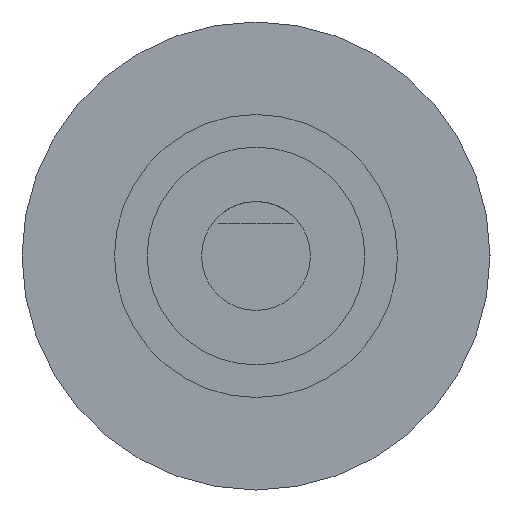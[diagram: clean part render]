
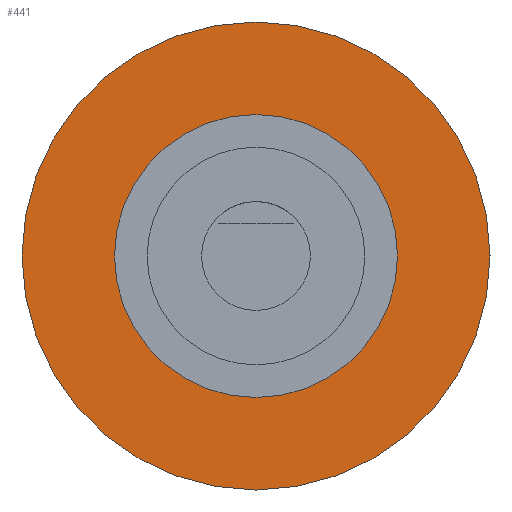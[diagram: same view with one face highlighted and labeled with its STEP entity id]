
A CAD part, left-side view. The second image highlights one B-rep face of the part: STEP entity #441.
In plain terms, the highlighted planar face has unit normal (-1, 0, 0) as drawn and (0, -1, 0) by its records, which use the part's own axes.
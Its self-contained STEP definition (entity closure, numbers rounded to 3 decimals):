
#184 = VERTEX_POINT ( 'NONE', #531 ) ;
#186 = EDGE_CURVE ( 'NONE', #184, #210, #508, .T. ) ;
#197 = VERTEX_POINT ( 'NONE', #476 ) ;
#198 = VERTEX_POINT ( 'NONE', #471 ) ;
#200 = EDGE_CURVE ( 'NONE', #197, #198, #570, .T. ) ;
#210 = VERTEX_POINT ( 'NONE', #527 ) ;
#228 = EDGE_LOOP ( 'NONE', ( #442, #383 ) ) ;
#378 = ORIENTED_EDGE ( 'NONE', *, *, #200, .F. ) ;
#382 = EDGE_CURVE ( 'NONE', #210, #184, #882, .T. ) ;
#383 = ORIENTED_EDGE ( 'NONE', *, *, #186, .F. ) ;
#384 = EDGE_LOOP ( 'NONE', ( #385, #378 ) ) ;
#385 = ORIENTED_EDGE ( 'NONE', *, *, #386, .F. ) ;
#386 = EDGE_CURVE ( 'NONE', #198, #197, #877, .T. ) ;
#441 = ADVANCED_FACE ( 'NONE', ( #966, #961 ), #960, .F. ) ;
#442 = ORIENTED_EDGE ( 'NONE', *, *, #382, .F. ) ;
#471 = CARTESIAN_POINT ( 'NONE',  ( 0., 62., 0.75 ) ) ;
#476 = CARTESIAN_POINT ( 'NONE',  ( 0., 62., -0.75 ) ) ;
#506 = CARTESIAN_POINT ( 'NONE',  ( 0., 62., 0. ) ) ;
#507 = AXIS2_PLACEMENT_3D ( 'NONE', #506, #543, #542 ) ;
#508 = CIRCLE ( 'NONE', #507, 2.15 ) ;
#527 = CARTESIAN_POINT ( 'NONE',  ( 0., 62., -2.15 ) ) ;
#531 = CARTESIAN_POINT ( 'NONE',  ( 0., 62., 2.15 ) ) ;
#542 = DIRECTION ( 'NONE',  ( 0., 0., 1. ) ) ;
#543 = DIRECTION ( 'NONE',  ( 0., 1., 0. ) ) ;
#566 = DIRECTION ( 'NONE',  ( 0., 0., 1. ) ) ;
#567 = DIRECTION ( 'NONE',  ( 0., -1., 0. ) ) ;
#568 = CARTESIAN_POINT ( 'NONE',  ( 0., 62., 0. ) ) ;
#569 = AXIS2_PLACEMENT_3D ( 'NONE', #568, #567, #566 ) ;
#570 = CIRCLE ( 'NONE', #569, 0.75 ) ;
#873 = DIRECTION ( 'NONE',  ( 0., 0., 1. ) ) ;
#874 = DIRECTION ( 'NONE',  ( 0., -1., 0. ) ) ;
#875 = CARTESIAN_POINT ( 'NONE',  ( 0., 62., 0. ) ) ;
#876 = AXIS2_PLACEMENT_3D ( 'NONE', #875, #874, #873 ) ;
#877 = CIRCLE ( 'NONE', #876, 0.75 ) ;
#878 = DIRECTION ( 'NONE',  ( 0., 0., 1. ) ) ;
#879 = DIRECTION ( 'NONE',  ( 0., 1., 0. ) ) ;
#880 = CARTESIAN_POINT ( 'NONE',  ( 0., 62., 0. ) ) ;
#881 = AXIS2_PLACEMENT_3D ( 'NONE', #880, #879, #878 ) ;
#882 = CIRCLE ( 'NONE', #881, 2.15 ) ;
#956 = DIRECTION ( 'NONE',  ( 0., 0., 1. ) ) ;
#957 = DIRECTION ( 'NONE',  ( 0., 1., 0. ) ) ;
#958 = CARTESIAN_POINT ( 'NONE',  ( 0., 62., 0. ) ) ;
#959 = AXIS2_PLACEMENT_3D ( 'NONE', #958, #957, #956 ) ;
#960 = PLANE ( 'NONE',  #959 ) ;
#961 = FACE_BOUND ( 'NONE', #384, .T. ) ;
#966 = FACE_OUTER_BOUND ( 'NONE', #228, .T. ) ;
